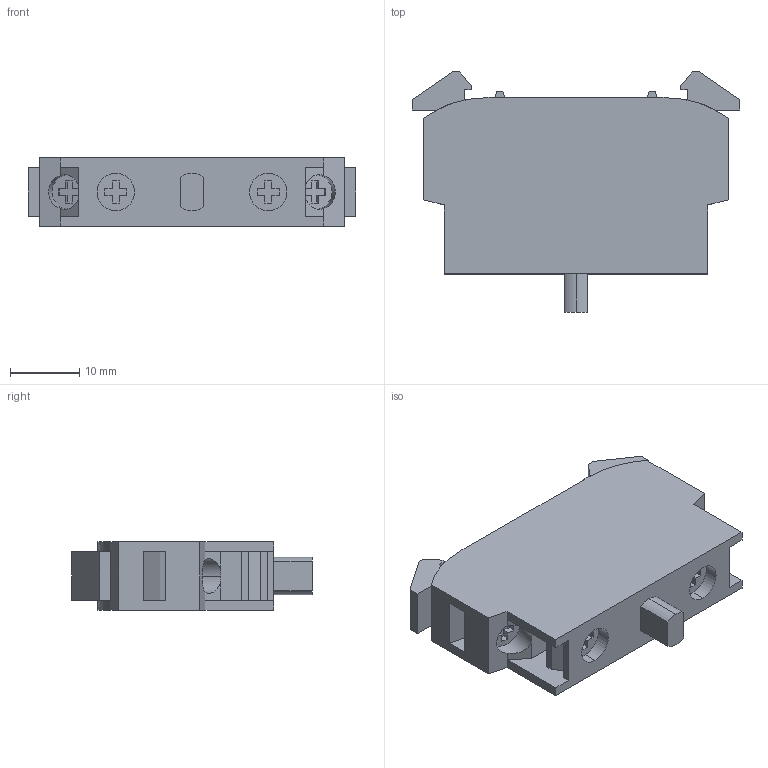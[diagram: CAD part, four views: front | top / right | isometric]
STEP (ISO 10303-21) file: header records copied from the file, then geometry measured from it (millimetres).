
FILE_DESCRIPTION (( 'STEP AP203' ), '1' );
FILE_NAME ('ZF_STEP_E2 CF20GxV1_A12.step', '2012-12-03T07:52:14', ( 'Pizzato Elettrica' ), ( '' ), 'SwSTEP 2.0', 'SolidWorks 2011', '' );
FILE_SCHEMA (( 'CONFIG_CONTROL_DESIGN' ));
Length unit declared in the file: millimetre
Products named in the file (1): ZF_STEP_E2 CF20GxV1_A12
Bounding box: 47.2 x 34.65 x 9.9 mm (x, y, z)
Volume: 9405.8 mm3; surface area: 4862.1 mm2
Topology: 1 solids, 1 shells, 156 faces, 419 edges, 278 vertices
Faces by surface type: plane 143, cylinder 13
Entity records: 4878 total; most frequent: CARTESIAN_POINT 878, ORIENTED_EDGE 838, DIRECTION 755, EDGE_CURVE 419, VECTOR 381, LINE 381, VERTEX_POINT 278, AXIS2_PLACEMENT_3D 187
